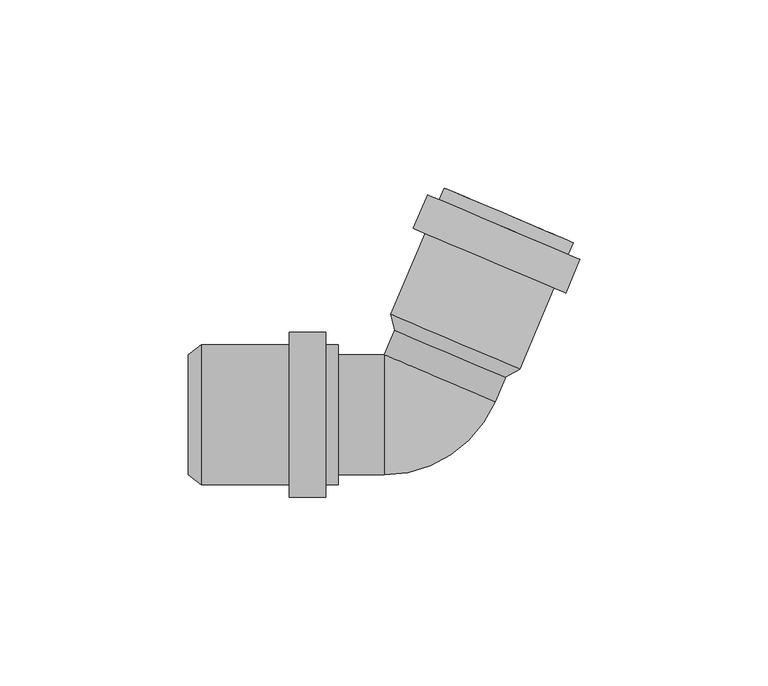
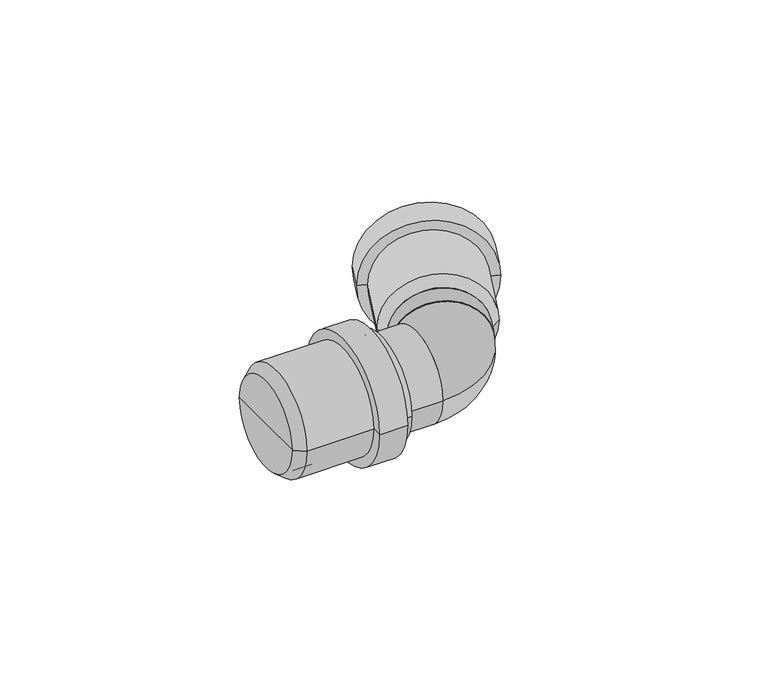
"""IFC4 building model written with IfcOpenShell, lengths in millimetres: pipe fitting geometry, pf_HTB : pf_HTB."""

from ifc_helpers import new_model, si_unit, point, frame, origin, origin_2d, place, context, project, spatial, polyline, circle_curve, ellipse_curve, trimmed, segment, composite_curve, outline, extrude, source, transform, mapped, element, save
from ifc_brep_helpers import plane_surface, cylinder_surface, revolved_surface, advanced_brep


def pipe_fitting_23abaf8c(model_context):
    return source(origin(), model_context, "Body", "SolidModel", [
        advanced_brep(
        [(21.6049455, 9.9491874, 0.0), (-7.8512098, 22.4525835, 0.0), (-8.8769635, 26.6902514, 0.0), (25.3658171, 12.1550534, 0.0), (6.8768679, 16.2008854, 0.0), (39.6275033, 45.7534806, 0.0), (5.3847227, 60.2886785, 0.0), (7.7780353, 59.2727776, 0.0), (37.2341907, 46.7693815, 0.0), (38.2990174, 42.6237641, 0.0), (4.0562369, 57.158962, 0.0), (41.4287339, 41.2952782, 0.0), (0.9265204, 58.4874479, 0.0), (37.638642, 32.3663812, 0.0), (-2.8635716, 49.5585508, 0.0), (34.5089255, 33.694867, 0.0), (0.2661449, 48.230065, 0.0), (22.9725045, 13.1709544, 0.0), (-6.4836508, 25.6743505, 0.0), (8.2444268, 19.4226524, 0.0)],
        [
            (0, 1, circle_curve(frame((6.8768679, 16.2008854, 0.0), z_axis=(0.3907311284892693, 0.9205048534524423, 0.0), x_axis=(-0.9205048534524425, 0.3907311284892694, 0.0)), 16.0)),
            (1, 2),
            (2, 3, circle_curve(frame((8.2444268, 19.4226524, 0.0), z_axis=(-0.3907311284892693, -0.9205048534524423, 0.0), x_axis=(-0.9205048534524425, 0.3907311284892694, 0.0)), 18.6)),
            (3, 0),
            (1, 0, circle_curve(frame((6.8768679, 16.2008854, 0.0), z_axis=(0.3907311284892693, 0.9205048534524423, 0.0), x_axis=(-0.9205048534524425, 0.3907311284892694, 0.0)), 16.0)),
            (3, 2, circle_curve(frame((8.2444268, 19.4226524, 0.0), z_axis=(-0.3907311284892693, -0.9205048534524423, 0.0), x_axis=(-0.9205048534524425, 0.3907311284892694, 0.0)), 18.6)),
            (4, 1),
            (0, 4),
            (5, 6, circle_curve(frame((22.506113, 53.0210796, 0.0), z_axis=(0.3907311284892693, 0.9205048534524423, 0.0), x_axis=(-0.9205048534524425, 0.3907311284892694, 0.0)), 18.6)),
            (6, 7),
            (7, 8, circle_curve(frame((22.506113, 53.0210796, 0.0), z_axis=(-0.3907311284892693, -0.9205048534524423, 0.0), x_axis=(-0.9205048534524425, 0.3907311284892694, 0.0)), 16.0)),
            (8, 5),
            (6, 5, circle_curve(frame((22.506113, 53.0210796, 0.0), z_axis=(0.3907311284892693, 0.9205048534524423, 0.0), x_axis=(-0.9205048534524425, 0.3907311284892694, 0.0)), 18.6)),
            (8, 7, circle_curve(frame((22.506113, 53.0210796, 0.0), z_axis=(-0.3907311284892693, -0.9205048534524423, 0.0), x_axis=(-0.9205048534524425, 0.3907311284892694, 0.0)), 16.0)),
            (9, 10, circle_curve(frame((21.1776272, 49.8913631, 0.0), z_axis=(0.3907311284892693, 0.9205048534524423, 0.0), x_axis=(-0.9205048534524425, 0.3907311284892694, 0.0)), 18.6)),
            (10, 6),
            (5, 9),
            (10, 9, circle_curve(frame((21.1776272, 49.8913631, 0.0), z_axis=(0.3907311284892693, 0.9205048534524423, 0.0), x_axis=(-0.9205048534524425, 0.3907311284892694, 0.0)), 18.6)),
            (11, 12, circle_curve(frame((21.1776272, 49.8913631, 0.0), z_axis=(0.3907311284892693, 0.9205048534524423, 0.0), x_axis=(-0.9205048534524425, 0.3907311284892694, 0.0)), 22.0)),
            (12, 10),
            (9, 11),
            (12, 11, circle_curve(frame((21.1776272, 49.8913631, 0.0), z_axis=(0.3907311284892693, 0.9205048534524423, 0.0), x_axis=(-0.9205048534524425, 0.3907311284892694, 0.0)), 22.0)),
            (13, 14, circle_curve(frame((17.3875352, 40.962466, 0.0), z_axis=(0.3907311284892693, 0.9205048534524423, 0.0), x_axis=(-0.9205048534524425, 0.3907311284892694, 0.0)), 22.0)),
            (14, 12),
            (11, 13),
            (14, 13, circle_curve(frame((17.3875352, 40.962466, 0.0), z_axis=(0.3907311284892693, 0.9205048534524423, 0.0), x_axis=(-0.9205048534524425, 0.3907311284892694, 0.0)), 22.0)),
            (15, 16, circle_curve(frame((17.3875352, 40.962466, 0.0), z_axis=(0.3907311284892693, 0.9205048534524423, 0.0), x_axis=(-0.9205048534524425, 0.3907311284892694, 0.0)), 18.6)),
            (16, 14),
            (13, 15),
            (16, 15, circle_curve(frame((17.3875352, 40.962466, 0.0), z_axis=(0.3907311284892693, 0.9205048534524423, 0.0), x_axis=(-0.9205048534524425, 0.3907311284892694, 0.0)), 18.6)),
            (2, 16),
            (15, 3),
            (17, 18, circle_curve(frame((8.2444268, 19.4226524, 0.0), z_axis=(0.3907311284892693, 0.9205048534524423, 0.0), x_axis=(-0.9205048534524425, 0.3907311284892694, 0.0)), 16.0)),
            (18, 19),
            (19, 17),
            (18, 17, circle_curve(frame((8.2444268, 19.4226524, 0.0), z_axis=(0.3907311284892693, 0.9205048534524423, 0.0), x_axis=(-0.9205048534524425, 0.3907311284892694, 0.0)), 16.0)),
            (7, 18),
            (17, 8),
        ],
        [
            revolved_surface(polyline([(-8.8769635, 26.6902514, 0.0), (-7.8512098, 22.4525835, 0.0)]), (6.8768679, 16.2008854, 0.0), (-0.3907311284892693, -0.9205048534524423, 0.0)),
            plane_surface(frame((6.8768679, 16.2008854, 0.0), z_axis=(-0.3907311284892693, -0.9205048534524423, 0.0), x_axis=(-0.9205048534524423, 0.3907311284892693, 0.0))),
            plane_surface(frame((22.506113, 53.0210796, 0.0), z_axis=(0.3907311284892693, 0.9205048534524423, 0.0), x_axis=(-0.9205048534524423, 0.3907311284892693, 0.0))),
            cylinder_surface(frame((6.8768679, 16.2008854, 0.0), z_axis=(-0.3907311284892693, -0.9205048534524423, 0.0), x_axis=(-0.9205048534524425, 0.3907311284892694, 0.0)), 18.6),
            plane_surface(frame((21.1776272, 49.8913631, 0.0), z_axis=(0.3907311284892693, 0.9205048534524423, 0.0), x_axis=(-0.9205048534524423, 0.3907311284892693, 0.0))),
            cylinder_surface(frame((6.8768679, 16.2008854, 0.0), z_axis=(-0.3907311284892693, -0.9205048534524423, 0.0), x_axis=(-0.9205048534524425, 0.3907311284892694, 0.0)), 22.0),
            plane_surface(frame((17.3875352, 40.962466, 0.0), z_axis=(-0.3907311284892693, -0.9205048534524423, 0.0), x_axis=(-0.9205048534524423, 0.3907311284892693, 0.0))),
            plane_surface(frame((8.2444268, 19.4226524, 0.0), z_axis=(0.3907311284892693, 0.9205048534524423, 0.0), x_axis=(-0.9205048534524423, 0.3907311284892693, 0.0))),
            revolved_surface(polyline([(-6.4836508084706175, 25.674350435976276, 0.0), (7.778035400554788, 59.27277763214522, 0.0)]), (6.8768679, 16.2008854, 0.0), (-0.3907311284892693, -0.9205048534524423, 0.0)),
        ],
        [
            (0, [[1, 2, 3, 4]]),
            (0, [[5, -4, 6, -2]]),
            (1, [[7, -1, 8]]),
            (1, [[-8, -5, -7]]),
            (2, [[9, 10, 11, 12]]),
            (2, [[13, -12, 14, -10]]),
            (3, [[15, 16, -9, 17]]),
            (3, [[18, -17, -13, -16]]),
            (4, [[19, 20, -15, 21]]),
            (4, [[22, -21, -18, -20]]),
            (5, [[23, 24, -19, 25]]),
            (5, [[26, -25, -22, -24]]),
            (6, [[27, 28, -23, 29]]),
            (6, [[30, -29, -26, -28]]),
            (3, [[-3, 31, -27, 32]]),
            (3, [[-6, -32, -30, -31]]),
            (7, [[33, 34, 35]]),
            (7, [[36, -35, -34]]),
            (8, [[-11, 37, -33, 38]]),
            (8, [[-14, -38, -36, -37]]),
        ],
    ),
        advanced_brep(
        [(-62.8, -16.0, 0.0), (-62.8, 16.0, 0.0), (-59.3, 18.6, 0.0), (-59.3, -18.6, 0.0), (-62.8, 0.0, 0.0), (-22.8, -18.6, 0.0), (-22.8, 18.6, 0.0), (-22.8, 16.0, 0.0), (-22.8, -16.0, 0.0), (-26.2, -18.6, 0.0), (-26.2, 18.6, 0.0), (-26.2, -22.0, 0.0), (-26.2, 22.0, 0.0), (-35.9, -22.0, 0.0), (-35.9, 22.0, 0.0), (-35.9, -18.6, 0.0), (-35.9, 18.6, 0.0), (-59.3, -16.0, 0.0), (-59.3, 16.0, 0.0), (-59.3, 0.0, 0.0)],
        [
            (0, 1, circle_curve(frame((-62.8, 0.0, 0.0), z_axis=(1.0, 0.0, 0.0), x_axis=(0.0, 1.0, 0.0)), 16.0)),
            (1, 2),
            (2, 3, circle_curve(frame((-59.3, 0.0, 0.0), z_axis=(-1.0, 0.0, 0.0), x_axis=(0.0, 1.0, 0.0)), 18.6)),
            (3, 0),
            (1, 0, circle_curve(frame((-62.8, 0.0, 0.0), z_axis=(1.0, 0.0, 0.0), x_axis=(0.0, 1.0, 0.0)), 16.0)),
            (3, 2, circle_curve(frame((-59.3, 0.0, 0.0), z_axis=(-1.0, 0.0, 0.0), x_axis=(0.0, 1.0, 0.0)), 18.6)),
            (4, 1),
            (0, 4),
            (5, 6, circle_curve(frame((-22.8, 0.0, 0.0), z_axis=(1.0, 0.0, 0.0), x_axis=(0.0, 1.0, 0.0)), 18.6)),
            (6, 7),
            (7, 8, circle_curve(frame((-22.8, 0.0, 0.0), z_axis=(-1.0, 0.0, 0.0), x_axis=(0.0, 1.0, 0.0)), 16.0)),
            (8, 5),
            (6, 5, circle_curve(frame((-22.8, 0.0, 0.0), z_axis=(1.0, 0.0, 0.0), x_axis=(0.0, 1.0, 0.0)), 18.6)),
            (8, 7, circle_curve(frame((-22.8, 0.0, 0.0), z_axis=(-1.0, 0.0, 0.0), x_axis=(0.0, 1.0, 0.0)), 16.0)),
            (9, 10, circle_curve(frame((-26.2, 0.0, 0.0), z_axis=(1.0, 0.0, 0.0), x_axis=(0.0, 1.0, 0.0)), 18.6)),
            (10, 6),
            (5, 9),
            (10, 9, circle_curve(frame((-26.2, 0.0, 0.0), z_axis=(1.0, 0.0, 0.0), x_axis=(0.0, 1.0, 0.0)), 18.6)),
            (11, 12, circle_curve(frame((-26.2, 0.0, 0.0), z_axis=(1.0, 0.0, 0.0), x_axis=(0.0, 1.0, 0.0)), 22.0)),
            (12, 10),
            (9, 11),
            (12, 11, circle_curve(frame((-26.2, 0.0, 0.0), z_axis=(1.0, 0.0, 0.0), x_axis=(0.0, 1.0, 0.0)), 22.0)),
            (13, 14, circle_curve(frame((-35.9, 0.0, 0.0), z_axis=(1.0, 0.0, 0.0), x_axis=(0.0, 1.0, 0.0)), 22.0)),
            (14, 12),
            (11, 13),
            (14, 13, circle_curve(frame((-35.9, 0.0, 0.0), z_axis=(1.0, 0.0, 0.0), x_axis=(0.0, 1.0, 0.0)), 22.0)),
            (15, 16, circle_curve(frame((-35.9, 0.0, 0.0), z_axis=(1.0, 0.0, 0.0), x_axis=(0.0, 1.0, 0.0)), 18.6)),
            (16, 14),
            (13, 15),
            (16, 15, circle_curve(frame((-35.9, 0.0, 0.0), z_axis=(1.0, 0.0, 0.0), x_axis=(0.0, 1.0, 0.0)), 18.6)),
            (2, 16),
            (15, 3),
            (17, 18, circle_curve(frame((-59.3, 0.0, 0.0), z_axis=(1.0, 0.0, 0.0), x_axis=(0.0, 1.0, 0.0)), 16.0)),
            (18, 19),
            (19, 17),
            (18, 17, circle_curve(frame((-59.3, 0.0, 0.0), z_axis=(1.0, 0.0, 0.0), x_axis=(0.0, 1.0, 0.0)), 16.0)),
            (7, 18),
            (17, 8),
        ],
        [
            revolved_surface(polyline([(-59.3, 18.6, 0.0), (-62.8, 16.0, 0.0)]), (-62.8, 0.0, 0.0), (-1.0, 0.0, 0.0)),
            plane_surface(frame((-62.8, 0.0, 0.0), z_axis=(-1.0, 0.0, 0.0), x_axis=(0.0, 1.0, 0.0))),
            plane_surface(frame((-22.8, 0.0, 0.0), z_axis=(1.0, 0.0, 0.0), x_axis=(0.0, 1.0, 0.0))),
            cylinder_surface(frame((-62.8, 0.0, 0.0), z_axis=(-1.0, 0.0, 0.0), x_axis=(0.0, 1.0, 0.0)), 18.6),
            plane_surface(frame((-26.2, 0.0, 0.0), z_axis=(1.0, 0.0, 0.0), x_axis=(0.0, 1.0, 0.0))),
            cylinder_surface(frame((-62.8, 0.0, 0.0), z_axis=(-1.0, 0.0, 0.0), x_axis=(0.0, 1.0, 0.0)), 22.0),
            plane_surface(frame((-35.9, 0.0, 0.0), z_axis=(-1.0, 0.0, 0.0), x_axis=(0.0, 1.0, 0.0))),
            plane_surface(frame((-59.3, 0.0, 0.0), z_axis=(1.0, 0.0, 0.0), x_axis=(0.0, 1.0, 0.0))),
            revolved_surface(polyline([(-59.3, 16.0, 0.0), (-22.799999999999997, 16.0, 0.0)]), (-62.8, 0.0, 0.0), (-1.0, 0.0, 0.0)),
        ],
        [
            (0, [[1, 2, 3, 4]]),
            (0, [[5, -4, 6, -2]]),
            (1, [[7, -1, 8]]),
            (1, [[-8, -5, -7]]),
            (2, [[9, 10, 11, 12]]),
            (2, [[13, -12, 14, -10]]),
            (3, [[15, 16, -9, 17]]),
            (3, [[18, -17, -13, -16]]),
            (4, [[19, 20, -15, 21]]),
            (4, [[22, -21, -18, -20]]),
            (5, [[23, 24, -19, 25]]),
            (5, [[26, -25, -22, -24]]),
            (6, [[27, 28, -23, 29]]),
            (6, [[30, -29, -26, -28]]),
            (3, [[-3, 31, -27, 32]]),
            (3, [[-6, -32, -30, -31]]),
            (7, [[33, 34, 35]]),
            (7, [[36, -35, -34]]),
            (8, [[-11, 37, -33, 38]]),
            (8, [[-14, -38, -36, -37]]),
        ],
    ),
        extrude(outline(composite_curve([segment(trimmed(circle_curve(origin_2d(), 16.0), [point((0.0, -16.0000001))], [point((0.0, 15.9999999))], False, "CARTESIAN"), True, "CONTINUOUS"), segment(trimmed(circle_curve(origin_2d(), 16.0), [point((0.0, 15.9999999))], [point((0.0, -16.0000001))], False, "CARTESIAN"), True, "CONTINUOUS")], self_intersect=False)), frame((4.1379087, 9.7483019, 0.0), z_axis=(0.3907311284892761, 0.9205048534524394, 0.0), x_axis=(0.0, 0.0, 1.0)), (0.0, 0.0, 1.0), 10.509831),
        extrude(outline(composite_curve([segment(trimmed(circle_curve(origin_2d(), 16.0), [point((-16.0, 0.0))], [point((16.0, 0.0))], False, "CARTESIAN"), True, "CONTINUOUS"), segment(trimmed(circle_curve(origin_2d(), 16.0), [point((16.0, 0.0))], [point((-16.0, 0.0))], False, "CARTESIAN"), True, "CONTINUOUS")], self_intersect=False)), frame((-59.3, 0.0, 0.0), z_axis=(1.0, 0.0, 0.0), x_axis=(0.0, 1.0, 0.0)), (0.0, 0.0, 1.0), 48.709831),
        advanced_brep(
        [(-10.590169, -16.0, 0.0), (-10.590169, 16.0, 0.0), (18.8659863, 3.4966039, 0.0)],
        [
            (0, 1, circle_curve(frame((-10.590169, 0.0, 0.0), z_axis=(-1.0, 0.0, 0.0), x_axis=(0.0, 1.0, 0.0)), 16.0)),
            (1, 0, circle_curve(frame((-10.590169, 0.0, 0.0), z_axis=(-1.0, 0.0, 0.0), x_axis=(0.0, 1.0, 0.0)), 16.0)),
            (2, 1, circle_curve(frame((4.1379087, 9.7483019, 0.0), z_axis=(0.39073112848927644, 0.9205048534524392, 0.0), x_axis=(-0.9205048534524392, 0.39073112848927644, 0.0)), 16.0)),
            (1, 2, circle_curve(frame((4.1379087, 9.7483019, 0.0), z_axis=(0.39073112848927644, 0.9205048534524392, 0.0), x_axis=(-0.9205048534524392, 0.39073112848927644, 0.0)), 16.0)),
            (2, 0, circle_curve(frame((-10.590169, 16.0, 0.0), z_axis=(0.0, 0.0, -1.0), x_axis=(0.0, -1.0, 0.0)), 32.0)),
        ],
        [
            plane_surface(frame((-10.590169, 16.0, -14.8), z_axis=(-1.0, 0.0, 0.0), x_axis=(0.0, -1.0, 0.0))),
            plane_surface(frame((-10.590169, 16.0, -14.8), z_axis=(0.39073112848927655, 0.9205048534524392, 0.0), x_axis=(0.9205048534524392, -0.39073112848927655, 0.0))),
            revolved_surface(trimmed(ellipse_curve(frame((-10.590169, 0.0, 0.0), z_axis=(1.0, 0.0, 0.0), x_axis=(0.0, 1.0, 0.0)), 16.0, 16.0), [point((-10.590169, -16.0, 0.0))], [point((-10.590169, 16.0, 0.0))], True, "CARTESIAN"), (-10.590169, 16.0, -14.8), (0.0, 0.0, -1.0)),
            revolved_surface(trimmed(ellipse_curve(frame((-10.590169, 0.0, 0.0), z_axis=(1.0, 0.0, 0.0), x_axis=(0.0, 1.0, 0.0)), 16.0, 16.0), [point((-10.590169, 16.0, 0.0))], [point((-10.590169, -16.0, 0.0))], True, "CARTESIAN"), (-10.590169, 16.0, -14.8), (0.0, 0.0, -1.0)),
        ],
        [
            (0, [[1, 2]]),
            (1, [[3, 4]]),
            (2, [[5, -2, -3]]),
            (3, [[-1, -5, -4]]),
        ],
    ),
    ])


if __name__ == "__main__":
    model = new_model("IFC4")
    model_context = context("Model", 3, world=origin())
    ifc_project = project(units=[si_unit("LENGTHUNIT", "METRE", prefix="MILLI")], contexts=[model_context])
    site = spatial("IfcSite", under=ifc_project)
    building = spatial("IfcBuilding", under=site)
    placement = place(None, origin())
    pipe_fitting_shape = pipe_fitting_23abaf8c(model_context)
    element("IfcPipeFitting", 1, ObjectType="pf_HTB : pf_HTB", at=placement, inside=building, context=model_context, shape_type="MappedRepresentation", body=[
        mapped(pipe_fitting_shape, transform((0.0, 0.0, 0.0), x_axis=(1.0, 0.0, 0.0), y_axis=(0.0, 1.0, 0.0), z_axis=(0.0, 0.0, 1.0))),
    ])
    save(model, "model.ifc")
